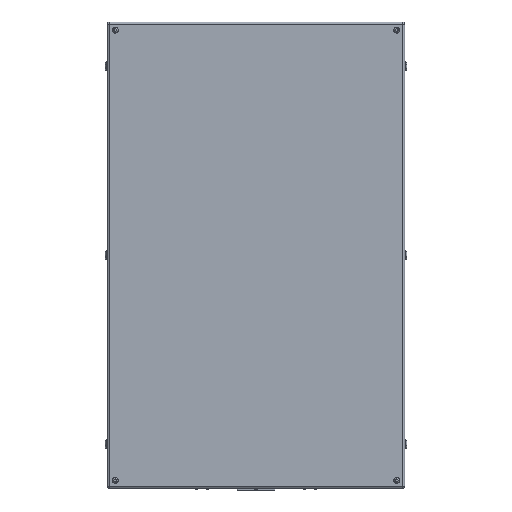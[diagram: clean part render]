
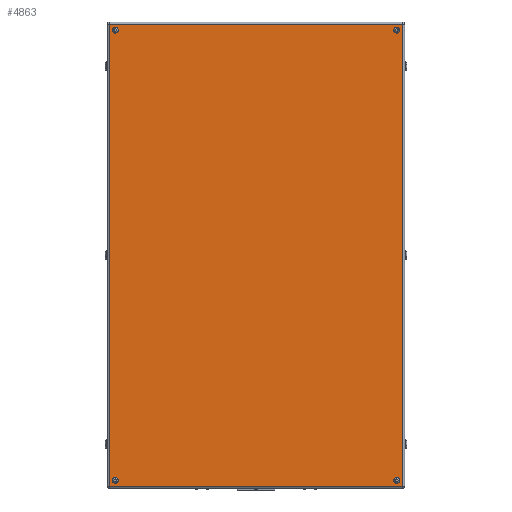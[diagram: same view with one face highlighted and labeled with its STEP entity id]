
A CAD part, front view. The second image highlights one B-rep face of the part: STEP entity #4863.
In plain terms, the highlighted planar face has unit normal (0, -1, 0).
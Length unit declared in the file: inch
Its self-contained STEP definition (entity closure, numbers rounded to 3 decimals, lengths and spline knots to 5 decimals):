
#302 = ORIENTED_EDGE ( 'NONE', *, *, #7047, .T. ) ;
#418 = AXIS2_PLACEMENT_3D ( 'NONE', #9412, #3105, #4521 ) ;
#501 = VERTEX_POINT ( 'NONE', #16293 ) ;
#624 = ORIENTED_EDGE ( 'NONE', *, *, #10787, .F. ) ;
#682 = EDGE_CURVE ( 'NONE', #4669, #1426, #1355, .T. ) ;
#963 = VECTOR ( 'NONE', #3319, 39.37008 ) ;
#1066 = ORIENTED_EDGE ( 'NONE', *, *, #2351, .T. ) ;
#1077 = FACE_BOUND ( 'NONE', #15697, .T. ) ;
#1202 = ORIENTED_EDGE ( 'NONE', *, *, #2959, .F. ) ;
#1217 = ORIENTED_EDGE ( 'NONE', *, *, #3209, .F. ) ;
#1301 = AXIS2_PLACEMENT_3D ( 'NONE', #15921, #15996, #13349 ) ;
#1355 = LINE ( 'NONE', #4065, #15100 ) ;
#1426 = VERTEX_POINT ( 'NONE', #1919 ) ;
#1568 = CARTESIAN_POINT ( 'NONE',  ( 0., -12., 0. ) ) ;
#1673 = DIRECTION ( 'NONE',  ( 0., -1., 0. ) ) ;
#1757 = VERTEX_POINT ( 'NONE', #9346 ) ;
#1919 = CARTESIAN_POINT ( 'NONE',  ( 18.234, -12., 28.734 ) ) ;
#1944 = DIRECTION ( 'NONE',  ( 0., 0., 1. ) ) ;
#2290 = FACE_BOUND ( 'NONE', #8466, .T. ) ;
#2351 = EDGE_CURVE ( 'NONE', #501, #4669, #13045, .T. ) ;
#2917 = CARTESIAN_POINT ( 'NONE',  ( -17.5, -12., 28.37402 ) ) ;
#2959 = EDGE_CURVE ( 'NONE', #9385, #7488, #15105, .T. ) ;
#3105 = DIRECTION ( 'NONE',  ( 0., -1., 0. ) ) ;
#3209 = EDGE_CURVE ( 'NONE', #3815, #5362, #4365, .T. ) ;
#3220 = DIRECTION ( 'NONE',  ( 0., 0., -1. ) ) ;
#3319 = DIRECTION ( 'NONE',  ( 1., 0., 0. ) ) ;
#3633 = ORIENTED_EDGE ( 'NONE', *, *, #7750, .F. ) ;
#3815 = VERTEX_POINT ( 'NONE', #10119 ) ;
#3936 = CARTESIAN_POINT ( 'NONE',  ( 17.5, -12., -28.37402 ) ) ;
#4007 = EDGE_LOOP ( 'NONE', ( #6125, #8849 ) ) ;
#4056 = DIRECTION ( 'NONE',  ( -1., 0., 0. ) ) ;
#4065 = CARTESIAN_POINT ( 'NONE',  ( 18.234, -12., 28.734 ) ) ;
#4107 = VERTEX_POINT ( 'NONE', #3936 ) ;
#4186 = CIRCLE ( 'NONE', #13492, 0.37402 ) ;
#4365 = CIRCLE ( 'NONE', #418, 0.37402 ) ;
#4422 = CARTESIAN_POINT ( 'NONE',  ( 17.5, -12., -28. ) ) ;
#4521 = DIRECTION ( 'NONE',  ( 0., 0., 1. ) ) ;
#4557 = CARTESIAN_POINT ( 'NONE',  ( 18.234, -12., -28.734 ) ) ;
#4648 = ORIENTED_EDGE ( 'NONE', *, *, #10394, .F. ) ;
#4669 = VERTEX_POINT ( 'NONE', #8860 ) ;
#4863 = ADVANCED_FACE ( 'NONE', ( #2290, #1077, #6082, #11172, #13947 ), #5196, .T. ) ;
#5196 = PLANE ( 'NONE',  #14426 ) ;
#5305 = CARTESIAN_POINT ( 'NONE',  ( -18.234, -12., 28.734 ) ) ;
#5362 = VERTEX_POINT ( 'NONE', #7033 ) ;
#5403 = ORIENTED_EDGE ( 'NONE', *, *, #9778, .T. ) ;
#5735 = DIRECTION ( 'NONE',  ( 0., -1., 0. ) ) ;
#6082 = FACE_BOUND ( 'NONE', #6769, .T. ) ;
#6125 = ORIENTED_EDGE ( 'NONE', *, *, #13673, .F. ) ;
#6629 = EDGE_CURVE ( 'NONE', #15168, #4107, #4186, .T. ) ;
#6769 = EDGE_LOOP ( 'NONE', ( #3633, #1202 ) ) ;
#6933 = ORIENTED_EDGE ( 'NONE', *, *, #6629, .F. ) ;
#7033 = CARTESIAN_POINT ( 'NONE',  ( 17.5, -12., 27.62598 ) ) ;
#7047 = EDGE_CURVE ( 'NONE', #1426, #1757, #11548, .T. ) ;
#7119 = CARTESIAN_POINT ( 'NONE',  ( -17.5, -12., -27.62598 ) ) ;
#7137 = VECTOR ( 'NONE', #4056, 39.37008 ) ;
#7188 = CIRCLE ( 'NONE', #9835, 0.37402 ) ;
#7391 = CIRCLE ( 'NONE', #12968, 0.37402 ) ;
#7488 = VERTEX_POINT ( 'NONE', #2917 ) ;
#7497 = CARTESIAN_POINT ( 'NONE',  ( 17.5, -12., 28. ) ) ;
#7750 = EDGE_CURVE ( 'NONE', #7488, #9385, #7188, .T. ) ;
#8087 = AXIS2_PLACEMENT_3D ( 'NONE', #11641, #11470, #13986 ) ;
#8119 = DIRECTION ( 'NONE',  ( 0., 0., -1. ) ) ;
#8466 = EDGE_LOOP ( 'NONE', ( #1217, #4648 ) ) ;
#8576 = DIRECTION ( 'NONE',  ( 0., 0., -1. ) ) ;
#8837 = DIRECTION ( 'NONE',  ( 0., 0., -1. ) ) ;
#8849 = ORIENTED_EDGE ( 'NONE', *, *, #11044, .F. ) ;
#8850 = AXIS2_PLACEMENT_3D ( 'NONE', #7497, #16151, #12316 ) ;
#8860 = CARTESIAN_POINT ( 'NONE',  ( 18.234, -12., -28.734 ) ) ;
#9024 = CARTESIAN_POINT ( 'NONE',  ( -17.5, -12., 27.62598 ) ) ;
#9346 = CARTESIAN_POINT ( 'NONE',  ( -18.234, -12., 28.734 ) ) ;
#9385 = VERTEX_POINT ( 'NONE', #9024 ) ;
#9412 = CARTESIAN_POINT ( 'NONE',  ( 17.5, -12., 28. ) ) ;
#9663 = AXIS2_PLACEMENT_3D ( 'NONE', #13782, #10020, #8837 ) ;
#9671 = VERTEX_POINT ( 'NONE', #12917 ) ;
#9778 = EDGE_CURVE ( 'NONE', #1757, #501, #14442, .T. ) ;
#9835 = AXIS2_PLACEMENT_3D ( 'NONE', #14480, #1673, #3220 ) ;
#10014 = ORIENTED_EDGE ( 'NONE', *, *, #682, .T. ) ;
#10020 = DIRECTION ( 'NONE',  ( 0., -1., 0. ) ) ;
#10119 = CARTESIAN_POINT ( 'NONE',  ( 17.5, -12., 28.37402 ) ) ;
#10269 = CARTESIAN_POINT ( 'NONE',  ( 17.5, -12., -27.62598 ) ) ;
#10394 = EDGE_CURVE ( 'NONE', #5362, #3815, #14991, .T. ) ;
#10787 = EDGE_CURVE ( 'NONE', #4107, #15168, #13672, .T. ) ;
#10900 = VERTEX_POINT ( 'NONE', #7119 ) ;
#11044 = EDGE_CURVE ( 'NONE', #9671, #10900, #14752, .T. ) ;
#11172 = FACE_BOUND ( 'NONE', #4007, .T. ) ;
#11470 = DIRECTION ( 'NONE',  ( 0., -1., 0. ) ) ;
#11548 = LINE ( 'NONE', #5305, #7137 ) ;
#11641 = CARTESIAN_POINT ( 'NONE',  ( 17.5, -12., -28. ) ) ;
#12316 = DIRECTION ( 'NONE',  ( 0., 0., 1. ) ) ;
#12678 = DIRECTION ( 'NONE',  ( 0., 0., -1. ) ) ;
#12792 = DIRECTION ( 'NONE',  ( 0., 0., 1. ) ) ;
#12917 = CARTESIAN_POINT ( 'NONE',  ( -17.5, -12., -28.37402 ) ) ;
#12968 = AXIS2_PLACEMENT_3D ( 'NONE', #13675, #13591, #8576 ) ;
#13045 = LINE ( 'NONE', #4557, #963 ) ;
#13157 = CARTESIAN_POINT ( 'NONE',  ( -18.234, -12., -28.734 ) ) ;
#13286 = EDGE_LOOP ( 'NONE', ( #10014, #302, #5403, #1066 ) ) ;
#13349 = DIRECTION ( 'NONE',  ( 0., 0., -1. ) ) ;
#13492 = AXIS2_PLACEMENT_3D ( 'NONE', #4422, #5735, #1944 ) ;
#13591 = DIRECTION ( 'NONE',  ( 0., -1., 0. ) ) ;
#13672 = CIRCLE ( 'NONE', #8087, 0.37402 ) ;
#13673 = EDGE_CURVE ( 'NONE', #10900, #9671, #7391, .T. ) ;
#13675 = CARTESIAN_POINT ( 'NONE',  ( -17.5, -12., -28. ) ) ;
#13782 = CARTESIAN_POINT ( 'NONE',  ( -17.5, -12., -28. ) ) ;
#13865 = DIRECTION ( 'NONE',  ( 0., -1., 0. ) ) ;
#13947 = FACE_OUTER_BOUND ( 'NONE', #13286, .T. ) ;
#13986 = DIRECTION ( 'NONE',  ( 0., 0., 1. ) ) ;
#14426 = AXIS2_PLACEMENT_3D ( 'NONE', #1568, #13865, #12678 ) ;
#14442 = LINE ( 'NONE', #13157, #16036 ) ;
#14480 = CARTESIAN_POINT ( 'NONE',  ( -17.5, -12., 28. ) ) ;
#14752 = CIRCLE ( 'NONE', #9663, 0.37402 ) ;
#14991 = CIRCLE ( 'NONE', #8850, 0.37402 ) ;
#15100 = VECTOR ( 'NONE', #12792, 39.37008 ) ;
#15105 = CIRCLE ( 'NONE', #1301, 0.37402 ) ;
#15168 = VERTEX_POINT ( 'NONE', #10269 ) ;
#15697 = EDGE_LOOP ( 'NONE', ( #6933, #624 ) ) ;
#15921 = CARTESIAN_POINT ( 'NONE',  ( -17.5, -12., 28. ) ) ;
#15996 = DIRECTION ( 'NONE',  ( 0., -1., 0. ) ) ;
#16036 = VECTOR ( 'NONE', #8119, 39.37008 ) ;
#16151 = DIRECTION ( 'NONE',  ( 0., -1., 0. ) ) ;
#16293 = CARTESIAN_POINT ( 'NONE',  ( -18.234, -12., -28.734 ) ) ;
